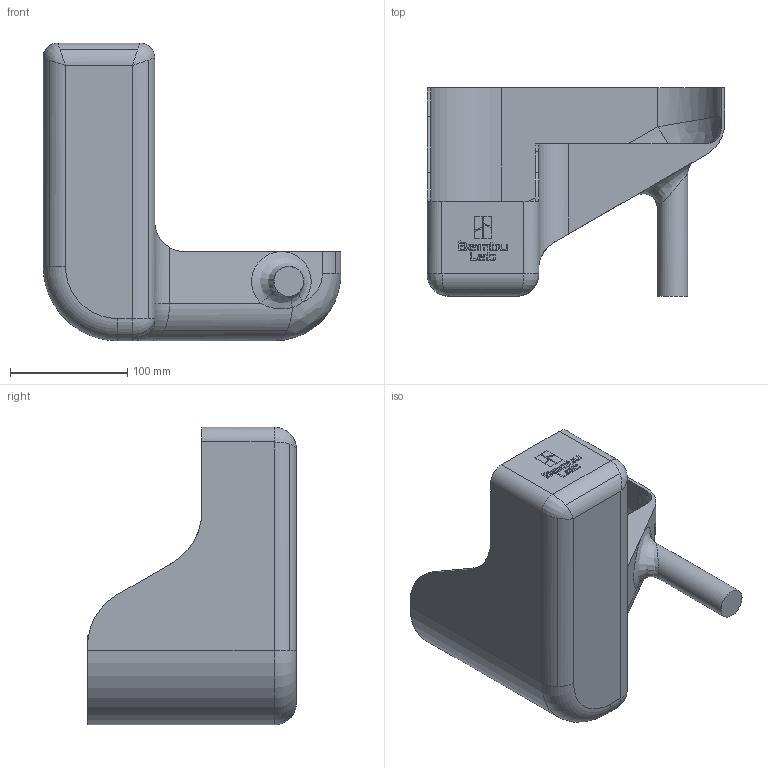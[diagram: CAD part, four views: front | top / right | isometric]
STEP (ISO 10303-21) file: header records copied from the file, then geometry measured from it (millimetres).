
FILE_DESCRIPTION (( 'STEP AP214' ), '1' );
FILE_NAME ('POOPY_SHOE_ms_edit_shortened_height_STEP.STEP', '2023-02-11T18:18:13', ( '' ), ( '' ), 'SwSTEP 2.0', 'SolidWorks 2021', '' );
FILE_SCHEMA (( 'AUTOMOTIVE_DESIGN' ));
Length unit declared in the file: millimetre
Products named in the file (1): POOPY_SHOE_ms_edit_shortened_height_STEP
Bounding box: 254 x 178.2 x 254 mm (x, y, z)
Volume: 479064.5 mm3; surface area: 250579.6 mm2
Topology: 1 solids, 1 shells, 255 faces, 674 edges, 434 vertices
Faces by surface type: bspline 124, plane 75, cylinder 48, sphere 4, torus 4
Entity records: 10266 total; most frequent: CARTESIAN_POINT 4857, ORIENTED_EDGE 1338, EDGE_CURVE 669, DIRECTION 636, VERTEX_POINT 434, B_SPLINE_CURVE_WITH_KNOTS 352, EDGE_LOOP 273, ADVANCED_FACE 255
